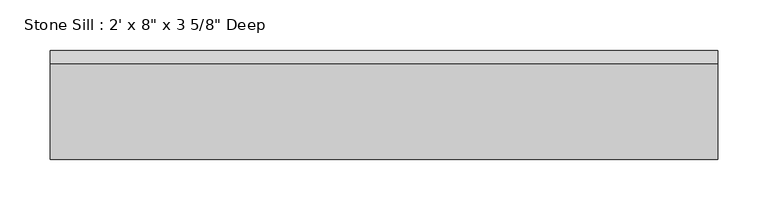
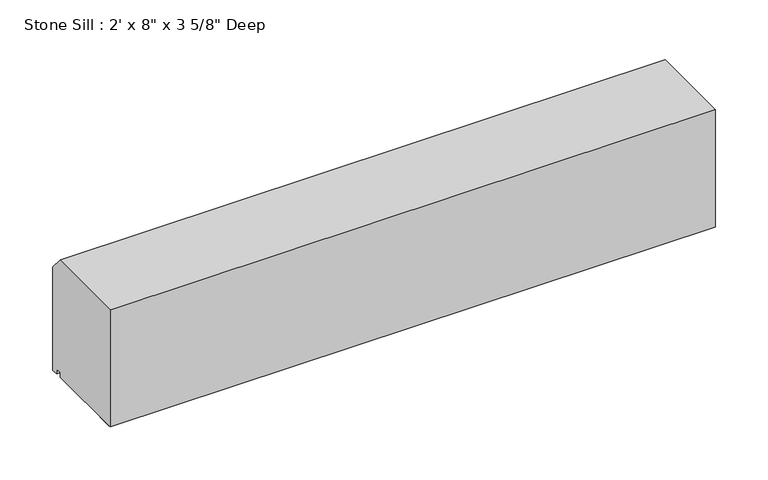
"""IFC4 building model written with IfcOpenShell, lengths in millimetres: proxy geometry."""

from ifc_helpers import new_model, si_unit, frame, origin, place, context, project, spatial, polyline, outline, extrude, source, transform, mapped, element, save


def proxy_52aa913c(model_context):
    return source(origin(), model_context, "Body", "SweptSolid", [
        extrude(outline(polyline([(56.1519131, 2055.8013021), (56.1519131, 2191.2679687), (150.6269131, 2191.2679687), (164.1019131, 2175.3929687), (164.1019131, 2055.8013021), (156.9769131, 2055.8013021), (156.9769131, 2061.4047094), (150.6269131, 2061.4047094), (150.6269131, 2055.8013021), (56.1519131, 2055.8013021)])), frame((284.0, 0.0, 0.0), z_axis=(1.0, 0.0, 0.0), x_axis=(0.0, 1.0, 0.0)), (0.0, 0.0, 1.0), 660.4),
        extrude(outline(polyline([(944.4, 58.5519131), (284.0, 58.5519131), (284.0, 74.4269131), (944.4, 74.4269131), (944.4, 58.5519131)])), frame((0.0, 0.0, 2055.8013021), z_axis=(0.0, 0.0, 1.0), x_axis=(1.0, 0.0, 0.0)), (0.0, 0.0, 1.0), 135.4666667),
    ])


if __name__ == "__main__":
    model = new_model("IFC4")
    model_context = context("Model", 3, world=origin())
    ifc_project = project(units=[si_unit("LENGTHUNIT", "METRE", prefix="MILLI")], contexts=[model_context])
    site = spatial("IfcSite", under=ifc_project)
    building = spatial("IfcBuilding", under=site)
    placement = place(None, origin())
    proxy_shape = proxy_52aa913c(model_context)
    element("IfcBuildingElementProxy", 1, Name="Stone Sill : 2' x 8\" x 3 5/8\" Deep", ObjectType="Stone Sill : 2' x 8\" x 3 5/8\" Deep", at=placement, inside=building, context=model_context, shape_type="MappedRepresentation", body=[
        mapped(proxy_shape, transform((0.0, 0.0, 0.0), x_axis=(1.0, 0.0, 0.0), y_axis=(0.0, 1.0, 0.0), z_axis=(0.0, 0.0, 1.0))),
    ])
    save(model, "model.ifc")
